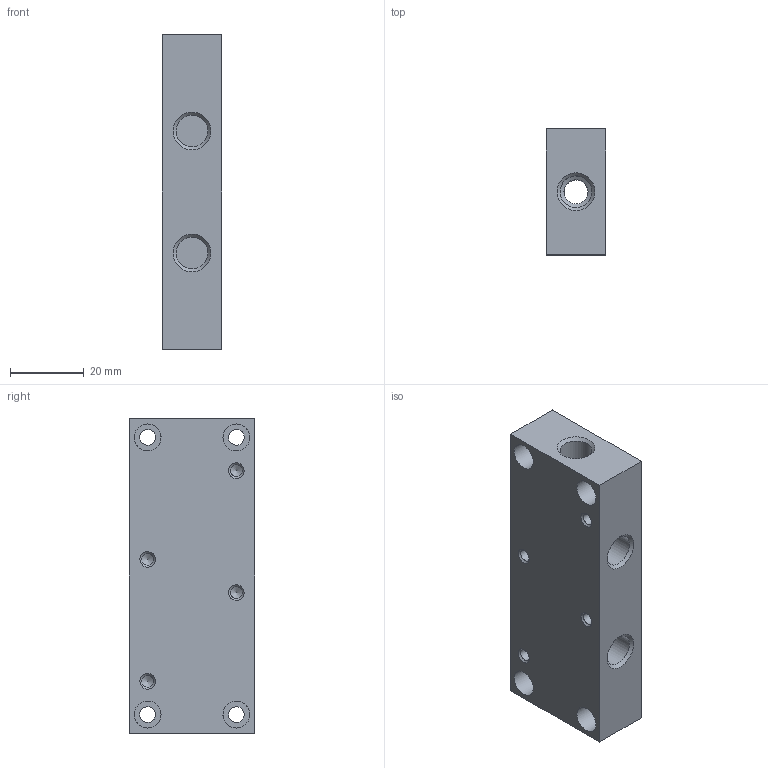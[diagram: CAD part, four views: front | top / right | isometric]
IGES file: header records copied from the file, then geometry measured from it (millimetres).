
Global section: file name: 300_08_02; native system: Autodesk Inventor 2014; preprocessor: unknown; author: A. Manieri; organization: Pneumax S.p.A.; date: 20161005.080805; units: millimetre
Bounding box: 16 x 34 x 85 mm (x, y, z)
Volume: 39746.3 mm3; surface area: 13215 mm2
Topology: 1 solids, 1 shells, 43 faces, 122 edges, 87 vertices
Faces by surface type: bspline 43
